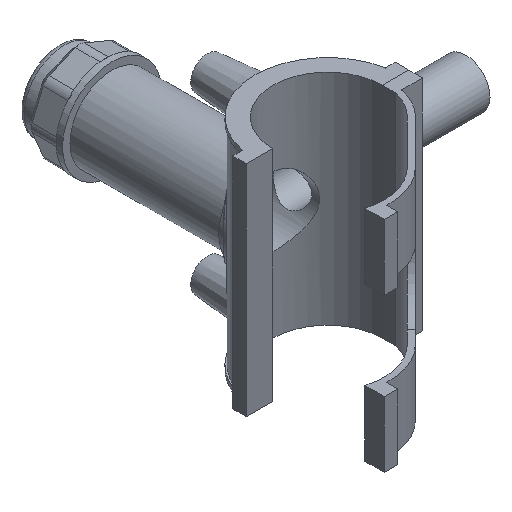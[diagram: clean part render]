
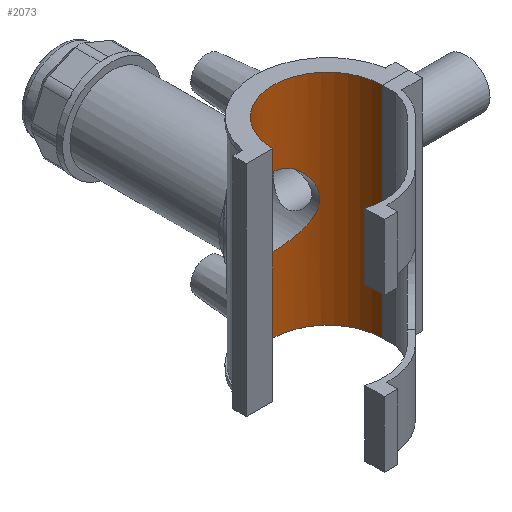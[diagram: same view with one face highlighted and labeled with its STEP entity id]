
A CAD part, isometric view. The second image highlights one B-rep face of the part: STEP entity #2073.
In plain terms, the highlighted cylindrical face has radius 25.05 mm (diameter 50.1 mm), a partial arc.
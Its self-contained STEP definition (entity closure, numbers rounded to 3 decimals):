
#53=FACE_BOUND('',#666,.T.);
#54=B_SPLINE_CURVE_WITH_KNOTS('',3,(#2952,#2953,#2954,#2955,#2956,#2957,
#2958,#2959,#2960,#2961,#2962,#2963,#2964,#2965,#2966,#2967,#2968,#2969,
#2970,#2971,#2972,#2973,#2974,#2975,#2976,#2977,#2978,#2979,#2980,#2981,
#2982,#2983,#2984,#2985,#2986,#2987,#2988,#2989),.UNSPECIFIED.,.F.,.F.,
(4,2,2,2,2,2,2,2,2,2,2,2,2,2,2,2,2,2,4),(0.,0.309,0.618,
1.237,1.85,2.156,2.463,2.77,
3.076,3.69,4.308,4.617,4.926,
5.235,5.544,6.163,6.776,7.083,
7.389),.UNSPECIFIED.);
#55=B_SPLINE_CURVE_WITH_KNOTS('',3,(#2990,#2991,#2992,#2993,#2994,#2995,
#2996,#2997,#2998,#2999,#3000,#3001,#3002,#3003),.UNSPECIFIED.,.F.,.F.,
(4,2,2,2,2,2,4),(7.389,7.696,8.002,8.616,
9.234,9.543,9.852),.UNSPECIFIED.);
#195=LINE('',#3955,#356);
#196=LINE('',#3959,#357);
#356=VECTOR('',#2784,10.);
#357=VECTOR('',#2787,10.);
#442=CYLINDRICAL_SURFACE('',#2297,25.05);
#539=FACE_OUTER_BOUND('',#665,.T.);
#665=EDGE_LOOP('',(#1768,#1769,#1770,#1771));
#666=EDGE_LOOP('',(#1772,#1773));
#771=CIRCLE('',#2294,25.05);
#772=CIRCLE('',#2296,25.05);
#791=VERTEX_POINT('',#2949);
#792=VERTEX_POINT('',#2951);
#941=VERTEX_POINT('',#3949);
#943=VERTEX_POINT('',#3953);
#944=VERTEX_POINT('',#3957);
#945=VERTEX_POINT('',#3958);
#995=EDGE_CURVE('',#792,#791,#54,.T.);
#996=EDGE_CURVE('',#791,#792,#55,.T.);
#1222=EDGE_CURVE('',#941,#943,#195,.T.);
#1223=EDGE_CURVE('',#944,#945,#196,.T.);
#1229=EDGE_CURVE('',#941,#945,#771,.T.);
#1230=EDGE_CURVE('',#944,#943,#772,.T.);
#1768=ORIENTED_EDGE('',*,*,#1223,.T.);
#1769=ORIENTED_EDGE('',*,*,#1229,.F.);
#1770=ORIENTED_EDGE('',*,*,#1222,.T.);
#1771=ORIENTED_EDGE('',*,*,#1230,.F.);
#1772=ORIENTED_EDGE('',*,*,#995,.T.);
#1773=ORIENTED_EDGE('',*,*,#996,.T.);
#2073=ADVANCED_FACE('',(#539,#53),#442,.F.);
#2294=AXIS2_PLACEMENT_3D('',#3968,#2795,#2796);
#2296=AXIS2_PLACEMENT_3D('',#3970,#2799,#2800);
#2297=AXIS2_PLACEMENT_3D('',#3973,#2803,#2804);
#2784=DIRECTION('',(0.,0.,-1.));
#2787=DIRECTION('',(0.,0.,1.));
#2795=DIRECTION('center_axis',(0.,0.,-1.));
#2796=DIRECTION('ref_axis',(-1.,0.,0.));
#2799=DIRECTION('center_axis',(0.,0.,1.));
#2800=DIRECTION('ref_axis',(-1.,0.,0.));
#2803=DIRECTION('center_axis',(0.,0.,1.));
#2804=DIRECTION('ref_axis',(-1.,0.,0.));
#2949=CARTESIAN_POINT('',(0.,25.05,-15.782));
#2951=CARTESIAN_POINT('',(-15.782,19.454,0.));
#2952=CARTESIAN_POINT('Ctrl Pts',(-15.782,19.454,0.));
#2953=CARTESIAN_POINT('Ctrl Pts',(-15.782,19.454,1.031));
#2954=CARTESIAN_POINT('Ctrl Pts',(-15.679,19.538,2.081));
#2955=CARTESIAN_POINT('Ctrl Pts',(-15.264,19.864,4.144));
#2956=CARTESIAN_POINT('Ctrl Pts',(-14.951,20.105,5.158));
#2957=CARTESIAN_POINT('Ctrl Pts',(-13.734,20.973,8.051));
#2958=CARTESIAN_POINT('Ctrl Pts',(-12.534,21.743,9.784));
#2959=CARTESIAN_POINT('Ctrl Pts',(-9.796,23.106,12.523));
#2960=CARTESIAN_POINT('Ctrl Pts',(-8.06,23.802,13.73));
#2961=CARTESIAN_POINT('Ctrl Pts',(-5.154,24.534,14.953));
#2962=CARTESIAN_POINT('Ctrl Pts',(-4.136,24.728,15.266));
#2963=CARTESIAN_POINT('Ctrl Pts',(-2.07,24.986,15.681));
#2964=CARTESIAN_POINT('Ctrl Pts',(-1.022,25.05,15.782));
#2965=CARTESIAN_POINT('Ctrl Pts',(1.022,25.05,15.782));
#2966=CARTESIAN_POINT('Ctrl Pts',(2.07,24.986,15.681));
#2967=CARTESIAN_POINT('Ctrl Pts',(4.136,24.728,15.266));
#2968=CARTESIAN_POINT('Ctrl Pts',(5.154,24.534,14.953));
#2969=CARTESIAN_POINT('Ctrl Pts',(8.06,23.802,13.73));
#2970=CARTESIAN_POINT('Ctrl Pts',(9.796,23.106,12.523));
#2971=CARTESIAN_POINT('Ctrl Pts',(12.534,21.743,9.784));
#2972=CARTESIAN_POINT('Ctrl Pts',(13.734,20.973,8.051));
#2973=CARTESIAN_POINT('Ctrl Pts',(14.951,20.105,5.158));
#2974=CARTESIAN_POINT('Ctrl Pts',(15.264,19.864,4.144));
#2975=CARTESIAN_POINT('Ctrl Pts',(15.679,19.538,2.081));
#2976=CARTESIAN_POINT('Ctrl Pts',(15.782,19.454,1.031));
#2977=CARTESIAN_POINT('Ctrl Pts',(15.782,19.454,-1.031));
#2978=CARTESIAN_POINT('Ctrl Pts',(15.679,19.538,-2.081));
#2979=CARTESIAN_POINT('Ctrl Pts',(15.264,19.864,-4.144));
#2980=CARTESIAN_POINT('Ctrl Pts',(14.951,20.105,-5.158));
#2981=CARTESIAN_POINT('Ctrl Pts',(13.734,20.973,-8.051));
#2982=CARTESIAN_POINT('Ctrl Pts',(12.534,21.743,-9.784));
#2983=CARTESIAN_POINT('Ctrl Pts',(9.796,23.106,-12.523));
#2984=CARTESIAN_POINT('Ctrl Pts',(8.06,23.802,-13.73));
#2985=CARTESIAN_POINT('Ctrl Pts',(5.154,24.534,-14.953));
#2986=CARTESIAN_POINT('Ctrl Pts',(4.136,24.728,-15.266));
#2987=CARTESIAN_POINT('Ctrl Pts',(2.07,24.986,-15.681));
#2988=CARTESIAN_POINT('Ctrl Pts',(1.022,25.05,-15.782));
#2989=CARTESIAN_POINT('Ctrl Pts',(0.,25.05,-15.782));
#2990=CARTESIAN_POINT('Ctrl Pts',(0.,25.05,-15.782));
#2991=CARTESIAN_POINT('Ctrl Pts',(-1.022,25.05,-15.782));
#2992=CARTESIAN_POINT('Ctrl Pts',(-2.07,24.986,-15.681));
#2993=CARTESIAN_POINT('Ctrl Pts',(-4.136,24.728,-15.266));
#2994=CARTESIAN_POINT('Ctrl Pts',(-5.154,24.534,-14.953));
#2995=CARTESIAN_POINT('Ctrl Pts',(-8.06,23.802,-13.73));
#2996=CARTESIAN_POINT('Ctrl Pts',(-9.796,23.106,-12.523));
#2997=CARTESIAN_POINT('Ctrl Pts',(-12.534,21.743,-9.784));
#2998=CARTESIAN_POINT('Ctrl Pts',(-13.734,20.973,-8.051));
#2999=CARTESIAN_POINT('Ctrl Pts',(-14.951,20.105,-5.158));
#3000=CARTESIAN_POINT('Ctrl Pts',(-15.264,19.864,-4.144));
#3001=CARTESIAN_POINT('Ctrl Pts',(-15.679,19.538,-2.081));
#3002=CARTESIAN_POINT('Ctrl Pts',(-15.782,19.454,-1.031));
#3003=CARTESIAN_POINT('Ctrl Pts',(-15.782,19.454,0.));
#3949=CARTESIAN_POINT('',(-25.05,0.05,50.038));
#3953=CARTESIAN_POINT('',(-25.05,0.05,-50.038));
#3955=CARTESIAN_POINT('',(-25.05,0.05,0.));
#3957=CARTESIAN_POINT('',(25.05,0.05,-50.038));
#3958=CARTESIAN_POINT('',(25.05,0.05,50.038));
#3959=CARTESIAN_POINT('',(25.05,0.05,0.));
#3968=CARTESIAN_POINT('Origin',(0.,0.,50.038));
#3970=CARTESIAN_POINT('Origin',(0.,0.,-50.038));
#3973=CARTESIAN_POINT('Origin',(0.,0.,0.));
